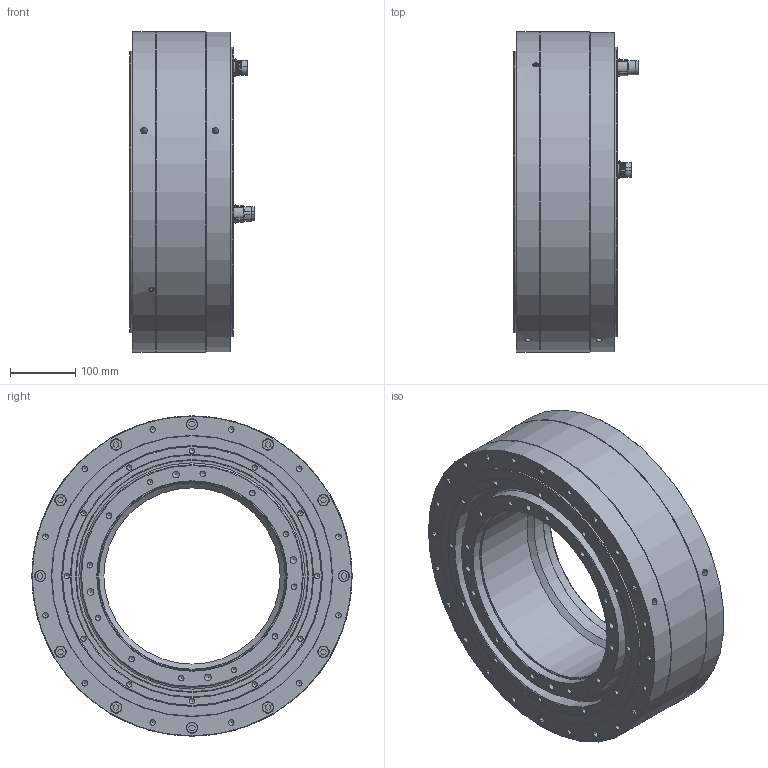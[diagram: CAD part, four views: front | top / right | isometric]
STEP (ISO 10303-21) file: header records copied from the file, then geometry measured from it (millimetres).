
FILE_DESCRIPTION( ( 'Unknown' ), '1' );
FILE_NAME( 'Q:/SKA DDR in acciaio/WEB File/SKA RT 430/3D/430CC035.stp', 'Unknown', ( 'Unknown' ), ( 'Unknown' ), 'PSStep 14.0', 'Unknown', ' ' );
FILE_SCHEMA( ( 'AUTOMOTIVE_DESIGN { 1 0 10303 214 1 1 1 1 }' ) );
Length unit declared in the file: millimetre
Products named in the file (16): Assem1; CN M23 PAN-POT BEGA 120 4 + 4 pin SpTcR; CN M23 PAN-SEG AEGA 139 17 pin SpTcR; 430FF010; 430VV006; 430FP003; 430FC001; Vite a brugola testa cil 8,8 -  M 2,5 x 8; Vite a brugola testa cil 12,9 -  M 10 x 50; Anello OR 3,53 D430,66-41700-oa0; Anello OR 3,53 D430,66-41700-oa1; Anello OR 3,53 D380,6-41500-oa2; Vite a brugola testa svasata 10,9 -  M  4 x 16; Grano senza punta M  6 x 10; 430FS023; 430GG009
Assembly tree (51 placements, depth 2):
  Assem1
    CN M23 PAN-POT BEGA 120 4 + 4 pin SpTcR
    CN M23 PAN-SEG AEGA 139 17 pin SpTcR
    430FF010
    430VV006
    430FP003
    430FC001
    Vite a brugola testa cil 8,8 -  M 2,5 x 8  x8
    Vite a brugola testa cil 12,9 -  M 10 x 50  x24
    Anello OR 3,53 D430,66-41700-oa0
    Anello OR 3,53 D430,66-41700-oa1
    Anello OR 3,53 D380,6-41500-oa2
    Vite a brugola testa svasata 10,9 -  M  4 x 16  x6
    Grano senza punta M  6 x 10  x2
    430FS023
    430GG009
Bounding box: 190.5 x 490 x 490 mm (x, y, z)
Volume: 12882050.2 mm3; surface area: 1866706.7 mm2
Topology: 51 solids, 51 shells, 1249 faces, 2845 edges, 1859 vertices
Faces by surface type: plane 551, cylinder 445, cone 217, torus 28, sphere 8
Full cylindrical faces by diameter (mm): 1.5 x4, 2 x17, 2.013 x8, 2.5 x12, 2.7 x4, 2.8 x4, 3.242 x16, 3.4 x6, 4 x8, 4.134 x12, 4.5 x6, 4.7 x8, 4.917 x2, 6 x2, 8 x12, 8.376 x96, 8.5 x12, 9 x2, 10 x32, 10.106 x4, 10.5 x36, 16 x24, 17 x2, 17.5 x24, 19.8 x2, 20 x3, 21 x2, 21.5 x2, 22 x2, 23 x2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
Entity records: 23938 total; most frequent: CARTESIAN_POINT 3473, DIRECTION 3408, ORIENTED_EDGE 2068, AXIS2_PLACEMENT_3D 1589, EDGE_LOOP 1542, FACE_OUTER_BOUND 1129, EDGE_CURVE 1034, VERTEX_POINT 1026
